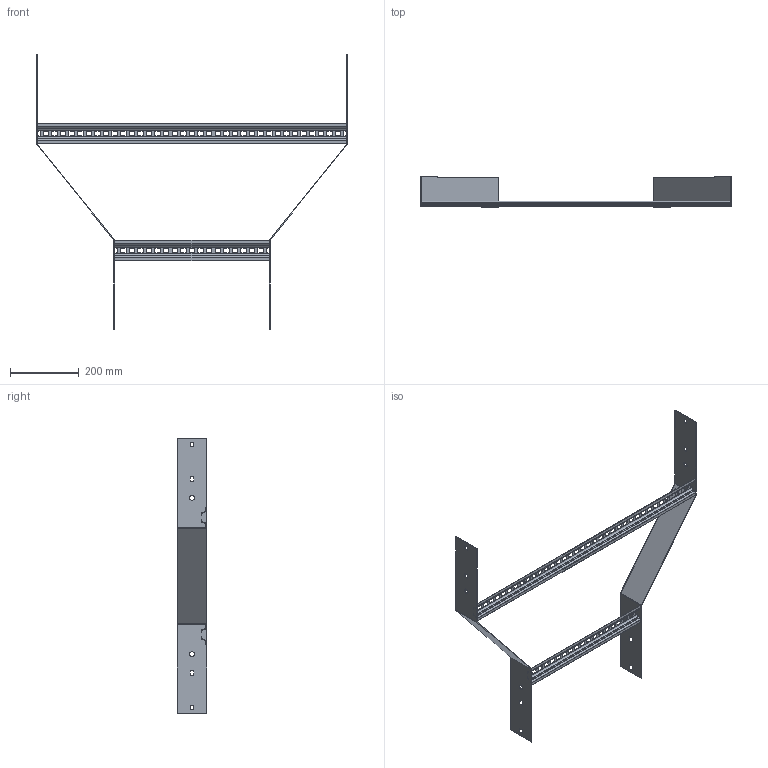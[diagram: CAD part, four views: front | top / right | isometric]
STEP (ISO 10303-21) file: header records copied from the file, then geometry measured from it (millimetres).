
FILE_DESCRIPTION (( 'STEP AP203' ), '1' );
FILE_NAME ('N2 SR900450.STEP', '2024-08-27T22:27:05', ( '' ), ( '' ), 'SwSTEP 2.0', 'SolidWorks 2023', '' );
FILE_SCHEMA (( 'CONFIG_CONTROL_DESIGN' ));
Length unit declared in the file: millimetre
Products named in the file (4): N2 SR900450; N2 Reducer side plate_SR450x900; Ladder Rung_Ladder Rung -  900mm; Ladder Rung_Ladder Rung -  450mm
Assembly tree (4 placements, depth 2):
  N2 SR900450
    N2 Reducer side plate_SR450x900  x2
    Ladder Rung_Ladder Rung -  450mm
    Ladder Rung_Ladder Rung -  900mm
Bounding box: 904 x 87 x 800 mm (x, y, z)
Volume: 446423.9 mm3; surface area: 501007.5 mm2
Topology: 4 solids, 4 shells, 384 faces, 1032 edges, 656 vertices
Faces by surface type: plane 352, cylinder 32
Entity records: 11158 total; most frequent: CARTESIAN_POINT 1869, ORIENTED_EDGE 1856, DIRECTION 1674, EDGE_CURVE 928, LINE 880, VECTOR 880, VERTEX_POINT 592, EDGE_LOOP 458
